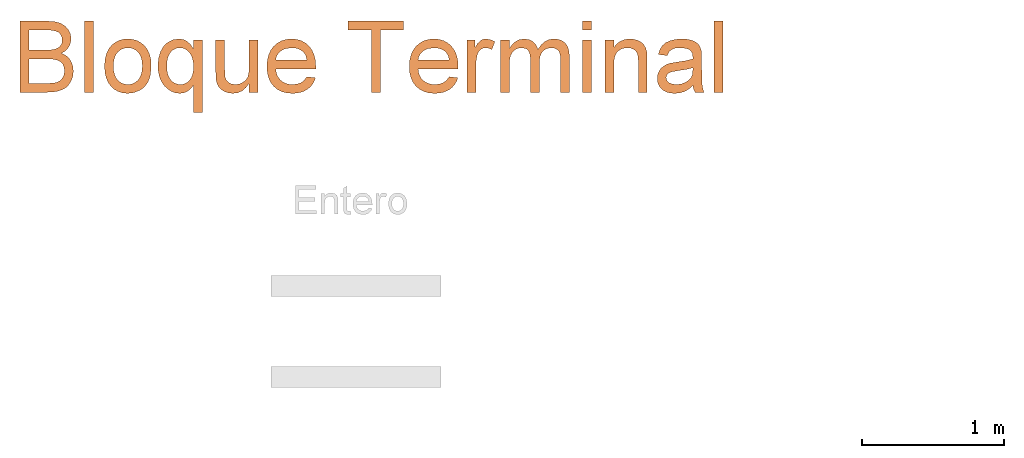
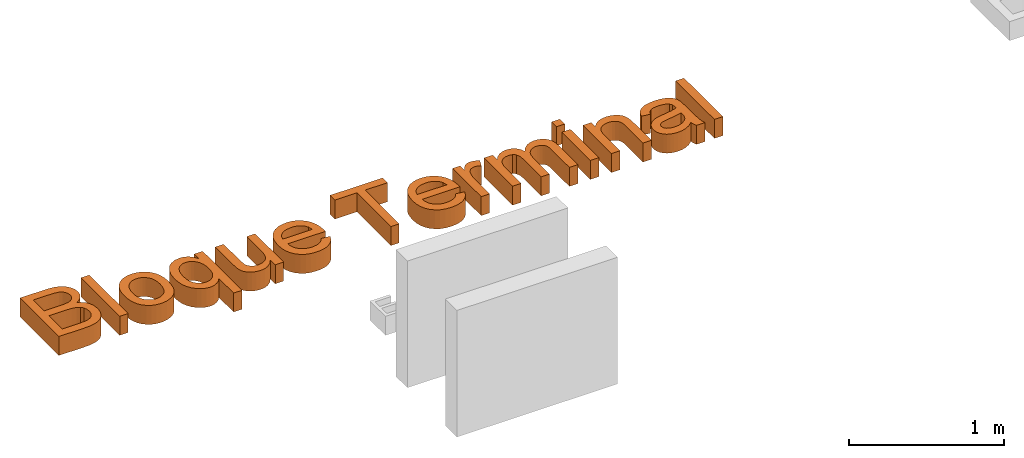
# One storey, part 2 of 8: 1 proxy.
"""IFC2X3 building model written with IfcOpenShell, lengths in metres."""

from ifc_helpers import new_model, entity, si_unit, converted_unit, derived_unit, direction, frame, frame_2d, origin, origin_2d_with_axis, place, context, subcontext, project, spatial, polyline, rectangle, outline, extrude, type_object, element, save


model = new_model("IFC2X3")

# Units and contexts
model_context = context("Model", 3, precision=1e-05, world=origin(), true_north=direction((6.12303176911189e-17, 1.0)))
body_context = subcontext(model_context, "Body", "Model", "MODEL_VIEW")
ifc_project = project(units=[si_unit("LENGTHUNIT", "METRE"), si_unit("AREAUNIT", "SQUARE_METRE"), si_unit("VOLUMEUNIT", "CUBIC_METRE"), converted_unit("PLANEANGLEUNIT", "DEGREE", entity("IfcRatioMeasure", 0.0174532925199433), si_unit("PLANEANGLEUNIT", "RADIAN"), dimensions=[0, 0, 0, 0, 0, 0, 0]), si_unit("MASSUNIT", "GRAM", prefix="KILO"), derived_unit("MASSDENSITYUNIT", [(si_unit("MASSUNIT", "GRAM", prefix="KILO"), 1), (si_unit("LENGTHUNIT", "METRE"), -3)]), derived_unit("MOMENTOFINERTIAUNIT", [(si_unit("LENGTHUNIT", "METRE"), 4)]), si_unit("TIMEUNIT", "SECOND"), si_unit("FREQUENCYUNIT", "HERTZ"), si_unit("THERMODYNAMICTEMPERATUREUNIT", "DEGREE_CELSIUS"), derived_unit("THERMALTRANSMITTANCEUNIT", [(si_unit("MASSUNIT", "GRAM", prefix="KILO"), 1), (si_unit("THERMODYNAMICTEMPERATUREUNIT", "KELVIN"), -1), (si_unit("TIMEUNIT", "SECOND"), -3)]), derived_unit("VOLUMETRICFLOWRATEUNIT", [(si_unit("LENGTHUNIT", "METRE"), 3), (si_unit("TIMEUNIT", "SECOND"), -1)]), si_unit("ELECTRICCURRENTUNIT", "AMPERE"), si_unit("ELECTRICVOLTAGEUNIT", "VOLT"), si_unit("POWERUNIT", "WATT"), si_unit("FORCEUNIT", "NEWTON", prefix="KILO"), si_unit("ILLUMINANCEUNIT", "LUX"), si_unit("LUMINOUSFLUXUNIT", "LUMEN"), si_unit("LUMINOUSINTENSITYUNIT", "CANDELA"), derived_unit("USERDEFINED", [(si_unit("MASSUNIT", "GRAM", prefix="KILO"), -1), (si_unit("LENGTHUNIT", "METRE"), -2), (si_unit("TIMEUNIT", "SECOND"), 3), (si_unit("LUMINOUSFLUXUNIT", "LUMEN"), 1)]), derived_unit("LINEARVELOCITYUNIT", [(si_unit("LENGTHUNIT", "METRE"), 1), (si_unit("TIMEUNIT", "SECOND"), -1)]), si_unit("PRESSUREUNIT", "PASCAL"), derived_unit("USERDEFINED", [(si_unit("LENGTHUNIT", "METRE"), -2), (si_unit("MASSUNIT", "GRAM", prefix="KILO"), 1), (si_unit("TIMEUNIT", "SECOND"), -2)]), derived_unit("LINEARFORCEUNIT", [(si_unit("MASSUNIT", "GRAM", prefix="KILO"), 1), (si_unit("LENGTHUNIT", "METRE"), 1), (si_unit("TIMEUNIT", "SECOND"), -2), (si_unit("LENGTHUNIT", "METRE"), -1)]), derived_unit("PLANARFORCEUNIT", [(si_unit("MASSUNIT", "GRAM", prefix="KILO"), 1), (si_unit("LENGTHUNIT", "METRE"), 1), (si_unit("TIMEUNIT", "SECOND"), -2), (si_unit("LENGTHUNIT", "METRE"), -2)])], contexts=[model_context])

# Site, building, storey
site_placement = place(None, origin())
site = spatial("IfcSite", under=ifc_project, at=site_placement, Name="Default", CompositionType="ELEMENT")
building_placement = place(site_placement, origin())
building = spatial("IfcBuilding", under=site, at=building_placement, CompositionType="ELEMENT")
storey_placement = place(building_placement, origin())
storey = spatial("IfcBuildingStorey", under=building, at=storey_placement, Name="Nivel 1", CompositionType="ELEMENT", Elevation=0.0)

# Proxy
building_element_proxy_type = type_object("IfcBuildingElementProxyType", Name="Texto de modelo:Título", PredefinedType="NOTDEFINED")
proxy_placement = place(storey_placement, origin())
element("IfcBuildingElementProxy", 1, at=proxy_placement, inside=storey, type_object=building_element_proxy_type, Name="Texto de modelo:Título", ObjectType="Texto de modelo:Título", context=body_context, shape_type="SweptSolid", body=[
    extrude(outline(polyline([(-0.292681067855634, -0.243581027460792), (-0.102486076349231, -0.243581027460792), (-0.0585088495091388, -0.241419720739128), (-0.0219812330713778, -0.234935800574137), (0.00807779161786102, -0.224236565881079), (0.0326492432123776, -0.209429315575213), (0.0527141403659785, -0.188981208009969), (0.0692535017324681, -0.161359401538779), (0.0803359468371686, -0.128878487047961), (0.0840300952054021, -0.0938530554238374), (0.0786191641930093, -0.0518225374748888), (0.0623863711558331, -0.015739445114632), (0.050403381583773, -0.000395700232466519), (0.0360981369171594, 0.0125261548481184), (0.0194706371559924, 0.0230261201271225), (0.000520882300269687, 0.0311041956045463), (0.0303039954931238, 0.0506785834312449), (0.0514725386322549, 0.0755566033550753), (0.0641184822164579, 0.103990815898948), (0.0683337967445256, 0.134233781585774), (0.0633214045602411, 0.167097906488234), (0.0482842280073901, 0.198490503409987), (0.0244025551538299, 0.22517727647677), (-0.00714332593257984, 0.243923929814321), (-0.0483001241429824, 0.255006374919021), (-0.101014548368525, 0.258700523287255), (-0.292681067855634, 0.258700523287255), (-0.292681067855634, -0.243581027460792)]), holes=[polyline([(-0.229895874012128, 0.0546486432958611), (-0.229895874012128, 0.195915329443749), (-0.12394585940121, 0.195915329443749), (-0.0752014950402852, 0.194275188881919), (-0.0432570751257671, 0.18935476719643), (-0.022441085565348, 0.180019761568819), (-0.00708201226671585, 0.165135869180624), (0.0023909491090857, 0.146067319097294), (0.00554860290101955, 0.124178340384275), (0.00216102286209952, 0.10163023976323), (-0.00800171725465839, 0.083282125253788), (-0.0248476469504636, 0.069348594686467), (-0.0482847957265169, 0.0600442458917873), (-0.0751401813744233, 0.0559975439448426), (-0.115239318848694, 0.0546486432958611), (-0.229895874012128, 0.0546486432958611)]), polyline([(-0.229895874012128, -0.180795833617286), (-0.229895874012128, -0.00813655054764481), (-0.107268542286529, -0.00813655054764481), (-0.0625555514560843, -0.0102365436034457), (-0.0297067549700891, -0.0165365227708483), (-0.00651486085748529, -0.0280175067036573), (0.00922742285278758, -0.0456605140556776), (0.0182405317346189, -0.0682239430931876), (0.021244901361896, -0.0944661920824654), (0.0186850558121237, -0.117060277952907), (0.0110055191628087, -0.136772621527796), (-0.000644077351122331, -0.152882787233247), (-0.0151141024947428, -0.16467033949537), (-0.0329103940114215, -0.172901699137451), (-0.0545387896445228, -0.178343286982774), (-0.101137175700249, -0.180795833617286), (-0.229895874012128, -0.180795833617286)])]), frame((-16.4073276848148, 0.973468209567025, 0.0)), (0.0, 0.0, 1.0), 0.15),
    extrude(rectangle(XDim=0.062785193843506, YDim=0.502281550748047, at=origin_2d_with_axis()), frame((-16.2134235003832, 0.981027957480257, 0.0)), (0.0, 0.0, 1.0), 0.15),
    extrude(outline(polyline([(-0.013195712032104, -0.170548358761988), (0.0307665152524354, -0.170548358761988), (0.0696520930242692, -0.164512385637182), (0.103461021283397, -0.152440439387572), (0.132193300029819, -0.134332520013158), (0.155411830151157, -0.111243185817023), (0.172679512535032, -0.084226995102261), (0.183996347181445, -0.0532839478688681), (0.189362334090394, -0.0184140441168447), (0.186618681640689, 0.0261717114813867), (0.172415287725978, 0.0679068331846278), (0.161237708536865, 0.0869767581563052), (0.14763823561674, 0.103876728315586), (0.131616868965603, 0.118606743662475), (0.113173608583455, 0.131166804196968), (0.0915479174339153, 0.141494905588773), (0.0659792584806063, 0.149529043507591), (0.0030130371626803, 0.158715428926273), (-0.0385534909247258, 0.158529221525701), (-0.0757586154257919, 0.152292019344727), (-0.108602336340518, 0.140003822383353), (-0.137084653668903, 0.121664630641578), (-0.160392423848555, 0.098442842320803), (-0.177712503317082, 0.0715068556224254), (-0.189044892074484, 0.0408566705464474), (-0.194389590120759, 0.00649228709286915), (-0.1938749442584, -0.0249843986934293), (-0.188105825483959, -0.0543136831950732), (-0.177082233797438, -0.0814955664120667), (-0.160804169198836, -0.106530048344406), (-0.134450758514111, -0.132057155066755), (-0.101064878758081, -0.151235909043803), (-0.0606465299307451, -0.164066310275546), (-0.013195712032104, -0.170548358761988)]), holes=[polyline([(-0.00925174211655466, -0.107887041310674), (-0.0395162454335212, -0.104102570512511), (-0.0654537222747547, -0.0969584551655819), (-0.0870641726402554, -0.0864546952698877), (-0.104347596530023, -0.0725912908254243), (-0.117399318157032, -0.0562452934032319), (-0.126314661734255, -0.038293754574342), (-0.131093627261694, -0.0187366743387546), (-0.131736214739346, 0.00242594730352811), (-0.128372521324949, 0.0230712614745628), (-0.121092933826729, 0.041688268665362), (-0.109897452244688, 0.0582769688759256), (-0.0947860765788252, 0.0728373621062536), (-0.0759345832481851, 0.0844361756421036), (-0.0535187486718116, 0.0921401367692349), (-0.027538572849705, 0.0959492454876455), (0.00200594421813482, 0.0958635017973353), (0.0329855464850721, 0.0920326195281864), (0.0594775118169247, 0.0848525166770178), (0.0814818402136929, 0.0743231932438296), (0.0989985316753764, 0.0604446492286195), (0.112185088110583, 0.0441052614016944), (0.121199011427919, 0.0261934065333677), (0.126040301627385, 0.00670908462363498), (0.126708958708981, -0.0143477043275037), (0.123328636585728, -0.0352492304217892), (0.116038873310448, -0.0540230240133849), (0.104839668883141, -0.0706690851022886), (0.0897310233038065, -0.0851874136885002), (0.070747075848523, -0.096696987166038), (0.0479219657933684, -0.104316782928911), (0.0212556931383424, -0.108046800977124), (-0.00925174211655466, -0.107887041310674)])]), frame((-15.9325044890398, 0.912196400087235, 0.0), z_axis=(0.0, 0.0, 1.0), x_axis=(0.0647659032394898, -0.997900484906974, 0.0)), (0.0, 0.0, 1.0), 0.15),
    extrude(outline(polyline([(0.113122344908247, -0.311998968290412), (0.175907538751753, -0.311998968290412), (0.175907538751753, 0.198130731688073), (0.113122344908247, 0.198130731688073), (0.113122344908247, 0.135590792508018), (0.0926742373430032, 0.166385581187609), (0.0687312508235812, 0.188381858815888), (0.0412933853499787, 0.201579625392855), (0.0103606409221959, 0.205978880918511), (-0.0296465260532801, 0.200307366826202), (-0.0662814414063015, 0.183292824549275), (-0.0827211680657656, 0.170616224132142), (-0.0970915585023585, 0.155272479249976), (-0.119624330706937, 0.11658355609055), (-0.133419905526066, 0.0697092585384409), (-0.138018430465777, 0.0171327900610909), (-0.135121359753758, -0.0259975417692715), (-0.126430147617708, -0.0642764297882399), (-0.111944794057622, -0.0977038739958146), (-0.0916652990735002, -0.126279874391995), (-0.0673774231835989, -0.149161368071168), (-0.0408669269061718, -0.165505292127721), (-0.0121338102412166, -0.175311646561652), (0.0188219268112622, -0.178580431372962), (0.0468422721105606, -0.174441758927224), (0.0732684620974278, -0.162025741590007), (0.0960464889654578, -0.143355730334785), (0.113122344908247, -0.120455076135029), (0.113122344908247, -0.311998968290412)]), holes=[polyline([(-0.075233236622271, 0.0136992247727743), (-0.0735586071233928, 0.0447967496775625), (-0.0685347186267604, 0.0715026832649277), (-0.0601615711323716, 0.09381702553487), (-0.0484391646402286, 0.111739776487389), (-0.0343101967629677, 0.125500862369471), (-0.0187173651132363, 0.135330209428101), (-0.00166066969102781, 0.141227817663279), (0.0168598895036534, 0.143193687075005), (0.0356103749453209, 0.141082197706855), (0.053111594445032, 0.134747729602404), (0.069363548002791, 0.124190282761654), (0.0843662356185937, 0.109409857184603), (0.0969470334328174, 0.0904447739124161), (0.105933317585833, 0.0673333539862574), (0.111325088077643, 0.0400755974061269), (0.113122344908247, 0.0086715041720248), (0.111417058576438, -0.0207743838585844), (0.106301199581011, -0.04620422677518), (0.0977747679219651, -0.0676180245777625), (0.0858377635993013, -0.0850157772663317), (0.0715401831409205, -0.0984817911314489), (0.0559320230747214, -0.108100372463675), (0.0390132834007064, -0.113871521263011), (0.0207839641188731, -0.115795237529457), (0.00174223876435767, -0.113771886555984), (-0.0158969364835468, -0.107701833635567), (-0.0321335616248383, -0.0975850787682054), (-0.0469676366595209, -0.0834216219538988), (-0.0593338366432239, -0.0652114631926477), (-0.0681668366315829, -0.0429546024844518), (-0.0734666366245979, -0.0166510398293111), (-0.075233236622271, 0.0136992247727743)])]), frame((-15.5888198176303, 0.900619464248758, 0.0)), (0.0, 0.0, 1.0), 0.15),
    extrude(outline(polyline([(0.0993741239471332, -0.10269783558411), (0.162159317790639, -0.10269783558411), (0.162159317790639, 0.266165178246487), (0.0993741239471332, 0.266165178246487), (0.0993741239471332, 0.0742534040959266), (0.0968296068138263, 0.0338323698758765), (0.0891960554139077, 0.00429451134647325), (0.0754464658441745, -0.0172725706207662), (0.0545538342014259, -0.0337812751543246), (0.0292159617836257, -0.0442659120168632), (0.0021306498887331, -0.0477607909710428), (-0.0234831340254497, -0.0443425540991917), (-0.0446516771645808, -0.0340878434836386), (-0.0603326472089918, -0.0178550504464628), (-0.0694837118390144, 0.00349743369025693), (-0.0732851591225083, 0.0675089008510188), (-0.0732851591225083, 0.266165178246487), (-0.136070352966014, 0.266165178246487), (-0.136070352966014, 0.0379557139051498), (-0.132391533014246, -0.0204148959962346), (-0.125018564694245, -0.0456454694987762), (-0.113690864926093, -0.0666454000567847), (-0.096860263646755, -0.083935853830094), (-0.0729785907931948, -0.0980379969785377), (-0.0445137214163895, -0.107418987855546), (-0.0139335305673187, -0.110545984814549), (0.0200035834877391, -0.106093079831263), (0.050200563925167, -0.0927343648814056), (0.076657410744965, -0.0704698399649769), (0.0993741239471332, -0.0392995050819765), (0.0993741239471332, -0.10269783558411)])), frame((-15.1826641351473, 0.832585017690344, 0.0)), (0.0, 0.0, 1.0), 0.15),
    extrude(outline(polyline([(-0.0285819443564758, -0.112502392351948), (-0.0578029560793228, -0.167249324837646), (-0.0322328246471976, -0.173818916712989), (-0.00713898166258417, -0.17600030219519), (0.0174785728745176, -0.173793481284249), (0.0416198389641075, -0.167198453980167), (0.0648944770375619, -0.156182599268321), (0.0869121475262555, -0.140713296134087), (0.10767285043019, -0.120790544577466), (0.127176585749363, -0.0964143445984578), (0.147184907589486, -0.0628437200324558), (0.159666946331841, -0.0291392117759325), (0.164622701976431, 0.00469918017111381), (0.162052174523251, 0.0386714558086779), (0.15193471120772, 0.0717021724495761), (0.134249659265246, 0.102715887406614), (0.108997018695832, 0.131712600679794), (0.0761767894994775, 0.158692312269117), (0.0386809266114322, 0.181565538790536), (0.00190165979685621, 0.196468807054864), (-0.0341610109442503, 0.203402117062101), (-0.0695070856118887, 0.202365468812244), (-0.10292872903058, 0.194014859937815), (-0.133218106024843, 0.179006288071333), (-0.160375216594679, 0.157339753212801), (-0.184400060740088, 0.129015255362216), (-0.202515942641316, 0.0979595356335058), (-0.213436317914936, 0.0659991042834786), (-0.217161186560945, 0.0331339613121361), (-0.213690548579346, -0.000635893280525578), (-0.202780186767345, -0.0339331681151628), (-0.184185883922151, -0.0653805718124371), (-0.157907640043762, -0.094978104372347), (-0.123945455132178, -0.122725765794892), (-0.109931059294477, -0.13221815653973), (0.0533469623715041, 0.0979071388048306), (0.071676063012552, 0.0804432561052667), (0.0853873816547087, 0.0618484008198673), (0.0944809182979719, 0.0421225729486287), (0.0989566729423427, 0.0212657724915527), (0.0991008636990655, 5.22501907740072e-05), (0.0951997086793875, -0.0207437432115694), (0.0872532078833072, -0.0411222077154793), (0.0752613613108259, -0.0610831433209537), (0.0532495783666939, -0.0864379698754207), (0.0289384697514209, -0.103695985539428), (0.00182798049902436, -0.112502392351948), (-0.0285819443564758, -0.112502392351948)]), holes=[polyline([(0.00214133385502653, 0.134238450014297), (-0.125018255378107, -0.0449812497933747), (-0.147157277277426, -0.0188609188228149), (-0.156876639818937, 0.00844625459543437), (-0.157470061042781, 0.02986104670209), (-0.153697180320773, 0.0510722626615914), (-0.145557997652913, 0.0720799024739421), (-0.133052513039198, 0.092883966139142), (-0.103774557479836, 0.124003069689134), (-0.0871344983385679, 0.13477385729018), (-0.0691603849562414, 0.142352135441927), (-0.0507231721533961, 0.146331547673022), (-0.0326938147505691, 0.146305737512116), (-0.015072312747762, 0.142274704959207), (0.00214133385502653, 0.134238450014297)])]), frame((-14.7842146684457, 0.881551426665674, 0.0), z_axis=(0.0, 0.0, -1.0), x_axis=(-0.578660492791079, -0.81556853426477, 0.0)), (0.0, 0.0, -1.0), 0.15),
    extrude(outline(polyline([(-0.031392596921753, -0.345318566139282), (0.031392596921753, -0.345318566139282), (0.031392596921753, 0.0941777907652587), (0.196203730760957, 0.0941777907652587), (0.196203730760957, 0.156962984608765), (-0.196203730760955, 0.156962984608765), (-0.196203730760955, 0.0941777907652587), (-0.031392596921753, 0.0941777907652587), (-0.031392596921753, -0.345318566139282)])), frame((-14.1886009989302, 1.07520574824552, 0.0)), (0.0, 0.0, 1.0), 0.15),
    extrude(outline(polyline([(-0.0285819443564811, -0.112502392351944), (-0.05780295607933, -0.167249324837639), (-0.0322328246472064, -0.173818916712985), (-0.00713898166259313, -0.176000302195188), (0.0174785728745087, -0.173793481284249), (0.041619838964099, -0.167198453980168), (0.0648944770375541, -0.156182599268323), (0.0869121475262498, -0.140713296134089), (0.107672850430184, -0.12079054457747), (0.127176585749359, -0.0964143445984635), (0.147184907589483, -0.0628437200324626), (0.159666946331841, -0.0291392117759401), (0.164622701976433, 0.00469918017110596), (0.162052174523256, 0.038671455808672), (0.151934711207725, 0.071702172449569), (0.134249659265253, 0.102715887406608), (0.108997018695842, 0.131712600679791), (0.076176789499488, 0.158692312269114), (0.0386809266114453, 0.181565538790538), (0.00190165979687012, 0.196468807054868), (-0.0341610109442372, 0.203402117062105), (-0.0695070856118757, 0.20236546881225), (-0.102928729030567, 0.194014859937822), (-0.133218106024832, 0.179006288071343), (-0.160375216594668, 0.157339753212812), (-0.184400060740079, 0.129015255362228), (-0.202515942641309, 0.0979595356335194), (-0.213436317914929, 0.0659991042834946), (-0.217161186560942, 0.0331339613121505), (-0.213690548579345, -0.000635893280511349), (-0.202780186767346, -0.0339331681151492), (-0.184185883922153, -0.0653805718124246), (-0.157907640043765, -0.0949781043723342), (-0.123945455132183, -0.122725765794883), (-0.109931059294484, -0.132218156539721), (0.053346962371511, 0.0979071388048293), (0.0716760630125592, 0.0804432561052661), (0.0853873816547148, 0.0618484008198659), (0.0944809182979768, 0.0421225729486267), (0.0989566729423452, 0.0212657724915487), (0.099100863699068, 5.22501907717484e-05), (0.0951997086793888, -0.0207437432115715), (0.0872532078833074, -0.0411222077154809), (0.0752613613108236, -0.0610831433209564), (0.0532495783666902, -0.086437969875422), (0.0289384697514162, -0.103695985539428), (0.00182798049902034, -0.112502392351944), (-0.0285819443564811, -0.112502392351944)]), holes=[polyline([(0.00214133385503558, 0.134238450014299), (-0.125018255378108, -0.0449812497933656), (-0.147157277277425, -0.0188609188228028), (-0.156876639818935, 0.0084462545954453), (-0.157470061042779, 0.0298610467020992), (-0.153697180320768, 0.0510722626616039), (-0.145557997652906, 0.0720799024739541), (-0.133052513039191, 0.0928839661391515), (-0.103774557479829, 0.12400306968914), (-0.0871344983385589, 0.134773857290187), (-0.0691603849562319, 0.142352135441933), (-0.0507231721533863, 0.146331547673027), (-0.0326938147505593, 0.14630573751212), (-0.0150723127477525, 0.14227470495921), (0.00214133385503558, 0.134238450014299)])]), frame((-13.7796515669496, 0.881551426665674, 0.0), z_axis=(0.0, 0.0, -1.0), x_axis=(-0.578660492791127, -0.815568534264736, 0.0)), (0.0, 0.0, -1.0), 0.15),
    extrude(outline(polyline([(-0.0949442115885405, -0.288007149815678), (-0.0321590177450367, -0.288007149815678), (-0.0321590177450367, -0.0941333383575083), (-0.0296145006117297, -0.055873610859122), (-0.0219809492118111, -0.0208021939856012), (-0.0128911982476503, -0.00124313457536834), (0.000643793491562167, 0.0135334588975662), (0.0173977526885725, 0.0228224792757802), (0.0361444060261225, 0.0259188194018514), (0.0582173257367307, 0.0226998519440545), (0.0802902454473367, 0.0130429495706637), (0.101259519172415, 0.0693288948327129), (0.0694990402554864, 0.0838602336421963), (0.038229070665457, 0.0887040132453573), (0.0177503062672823, 0.0856689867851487), (-0.00101167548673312, 0.0765639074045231), (-0.0197123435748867, 0.0579245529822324), (-0.0400071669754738, 0.0262867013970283), (-0.0400071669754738, 0.0808558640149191), (-0.0949442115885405, 0.0808558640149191), (-0.0949442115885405, -0.288007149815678)])), frame((-13.4501085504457, 1.01789433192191, 0.0)), (0.0, 0.0, 1.0), 0.15),
    extrude(outline(polyline([(-0.26520740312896, -0.27459804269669), (-0.202422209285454, -0.27459804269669), (-0.202422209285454, -0.0885723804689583), (-0.200030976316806, -0.0453769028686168), (-0.192857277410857, -0.0136470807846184), (-0.180349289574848, 0.00922291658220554), (-0.161955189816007, 0.025838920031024), (-0.139667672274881, 0.0359556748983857), (-0.115479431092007, 0.0393279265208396), (-0.0870145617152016, 0.0342695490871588), (-0.0762655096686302, 0.0279465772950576), (-0.0678387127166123, 0.0190944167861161), (-0.0569402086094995, -0.00622812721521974), (-0.0533073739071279, -0.0417287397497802), (-0.0533073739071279, -0.27459804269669), (0.00947781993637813, -0.27459804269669), (0.00947781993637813, -0.0663768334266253), (0.0110144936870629, -0.0405561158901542), (0.0156245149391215, -0.0185215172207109), (0.0233078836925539, -0.00027303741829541), (0.0340645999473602, 0.0141893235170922), (0.0471435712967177, 0.0251874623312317), (0.0617937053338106, 0.0330432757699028), (0.0780150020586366, 0.0377567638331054), (0.0958074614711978, 0.0393279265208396), (0.115075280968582, 0.0368753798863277), (0.131675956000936, 0.0295177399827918), (0.144582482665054, 0.0181593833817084), (0.152767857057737, 0.00370468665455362), (0.157136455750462, -0.0174025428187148), (0.158592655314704, -0.0487184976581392), (0.158592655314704, -0.27459804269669), (0.22137784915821, -0.27459804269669), (0.22137784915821, -0.0217404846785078), (0.219580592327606, 0.00778587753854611), (0.214188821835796, 0.0332118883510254), (0.20520253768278, 0.0545375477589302), (0.192621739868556, 0.0717628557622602), (0.176707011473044, 0.0850410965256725), (0.15771893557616, 0.0945255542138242), (0.135657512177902, 0.100216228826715), (0.11052274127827, 0.102113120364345), (0.0779805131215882, 0.0975529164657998), (0.0486572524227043, 0.0838723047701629), (0.0225529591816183, 0.0610712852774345), (-0.000332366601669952, 0.0291498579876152), (-0.0140053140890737, 0.059883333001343), (-0.0349132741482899, 0.0829219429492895), (-0.0629029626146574, 0.0973153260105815), (-0.0978210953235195, 0.102113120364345), (-0.130409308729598, 0.0974072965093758), (-0.159257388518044, 0.0832898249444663), (-0.183537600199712, 0.0614468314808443), (-0.202422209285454, 0.0335644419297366), (-0.202422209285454, 0.0942649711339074), (-0.26520740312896, 0.0942649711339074), (-0.26520740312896, -0.27459804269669)])), frame((-13.0444008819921, 1.00448522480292, 0.0)), (0.0, 0.0, 1.0), 0.15),
    extrude(rectangle(XDim=0.062785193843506, YDim=0.368863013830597, at=frame_2d((0.0, 1.38777878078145e-16), x_axis=(1.0, 0.0))), frame((-12.6974526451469, 0.914318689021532, 0.0)), (0.0, 0.0, 1.0), 0.15),
    extrude(rectangle(XDim=0.062785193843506, YDim=0.062785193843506, at=origin_2d_with_axis()), frame((-12.6974526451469, 1.20077613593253, 0.0)), (0.0, 0.0, 1.0), 0.15),
    extrude(outline(polyline([(-0.1603547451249, -0.269066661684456), (-0.0975695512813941, -0.269066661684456), (-0.0975695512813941, -0.0733534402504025), (-0.095779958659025, -0.0416619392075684), (-0.0904111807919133, -0.0155039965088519), (-0.0814632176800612, 0.00512038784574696), (-0.0689360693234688, 0.0202112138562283), (-0.0539410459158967, 0.0309947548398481), (-0.0375894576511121, 0.038697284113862), (-0.0198813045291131, 0.0433188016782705), (-0.000816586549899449, 0.0448593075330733), (0.0223446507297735, 0.0421155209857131), (0.0422869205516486, 0.0338841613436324), (0.0578452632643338, 0.0210542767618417), (0.067854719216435, 0.00451491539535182), (0.0732809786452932, -0.0185696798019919), (0.0750897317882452, -0.0510352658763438), (0.0750897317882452, -0.269066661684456), (0.137874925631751, -0.269066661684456), (0.137874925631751, -0.0425739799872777), (0.134563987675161, 0.0181265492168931), (0.127160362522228, 0.043035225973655), (0.115740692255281, 0.0642957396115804), (0.0989100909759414, 0.0818621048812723), (0.075273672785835, 0.0956883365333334), (0.0469314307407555, 0.104655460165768), (0.0159833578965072, 0.107644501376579), (-0.0189807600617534, 0.10393502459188), (-0.0495609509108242, 0.0928065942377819), (-0.0757572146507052, 0.0742592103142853), (-0.0975695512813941, 0.0482928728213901), (-0.0975695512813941, 0.099796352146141), (-0.1603547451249, 0.099796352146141), (-0.1603547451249, -0.269066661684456)])), frame((-12.411527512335, 0.998953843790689, 0.0)), (0.0, 0.0, 1.0), 0.15),
    extrude(outline(polyline([(0.160198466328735, 0.0633183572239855), (0.186081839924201, 0.0633183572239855), (0.209576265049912, 0.0683751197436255), (0.223259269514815, 0.129651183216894), (0.196354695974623, 0.127680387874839), (0.169011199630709, 0.128948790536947), (0.0618611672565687, 0.149608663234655), (-0.0143748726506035, 0.166632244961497), (-0.0686595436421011, 0.175612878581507), (-0.0932733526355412, 0.173350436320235), (-0.114444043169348, 0.166109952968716), (-0.133347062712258, 0.152284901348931), (-0.151157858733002, 0.130268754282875), (-0.16665857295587, 0.0992555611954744), (-0.178631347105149, 0.0584393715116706), (-0.185193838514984, 0.01456176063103), (-0.184356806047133, -0.0251569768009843), (-0.176301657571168, -0.0592785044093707), (-0.161209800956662, -0.086364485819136), (-0.138424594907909, -0.10811643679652), (-0.107289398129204, -0.12623587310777), (-0.0859468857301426, -0.0666701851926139), (-0.108704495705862, -0.0488037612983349), (-0.121173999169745, -0.0277690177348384), (-0.124323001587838, -0.000302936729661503), (-0.119119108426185, 0.0368574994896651), (-0.105885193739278, 0.0753031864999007), (-0.096879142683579, 0.0896105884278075), (-0.0862803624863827, 0.100641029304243), (-0.065562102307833, 0.109301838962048), (-0.037273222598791, 0.107413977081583), (-0.0237098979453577, 0.10400833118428), (-0.0220814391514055, 0.0578462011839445), (-0.0263777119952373, -0.00697087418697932), (-0.0290013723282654, -0.0620468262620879), (-0.0256182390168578, -0.0865653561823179), (-0.0184759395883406, -0.109441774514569), (-0.00688892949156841, -0.130138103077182), (0.00982833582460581, -0.148116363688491), (0.0309323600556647, -0.162063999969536), (0.0556796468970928, -0.170668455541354), (0.0777227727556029, -0.173552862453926), (0.0986131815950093, -0.172104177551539), (0.118350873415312, -0.166322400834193), (0.13693584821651, -0.156207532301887), (0.153501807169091, -0.141840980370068), (0.167182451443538, -0.123304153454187), (0.177977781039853, -0.100597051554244), (0.185887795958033, -0.0737196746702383), (0.190445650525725, -0.0391006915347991), (0.188458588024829, -0.00537611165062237), (0.17876379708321, 0.0284361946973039), (0.160198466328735, 0.0633183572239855)]), holes=[polyline([(0.0376463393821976, 0.0906843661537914), (0.054919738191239, 0.0864502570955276), (0.0819049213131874, 0.0778800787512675), (0.100148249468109, 0.0661732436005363), (0.115770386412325, 0.0454711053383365), (0.126707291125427, 0.0182763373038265), (0.131208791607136, -0.0132611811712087), (0.127524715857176, -0.0469915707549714), (0.117271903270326, -0.0772919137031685), (0.102280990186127, -0.0975818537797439), (0.0842943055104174, -0.107936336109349), (0.0650541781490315, -0.108430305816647), (0.0531649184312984, -0.10357659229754), (0.0433479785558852, -0.0947879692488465), (0.0362512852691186, -0.0825389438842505), (0.0325227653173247, -0.0673040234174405), (0.0343615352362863, -0.0123669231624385), (0.0386557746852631, 0.0472362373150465), (0.0376463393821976, 0.0906843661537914)])]), frame((-12.048587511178, 0.919524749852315, 0.0), z_axis=(0.0, 0.0, 1.0), x_axis=(0.217933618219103, -0.975963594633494, 0.0)), (0.0, 0.0, 1.0), 0.15),
    extrude(rectangle(XDim=0.062785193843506, YDim=0.502281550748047, at=origin_2d_with_axis()), frame((-11.7713710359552, 0.981027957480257, 0.0)), (0.0, 0.0, 1.0), 0.15),
])

save(model, "model.ifc")
